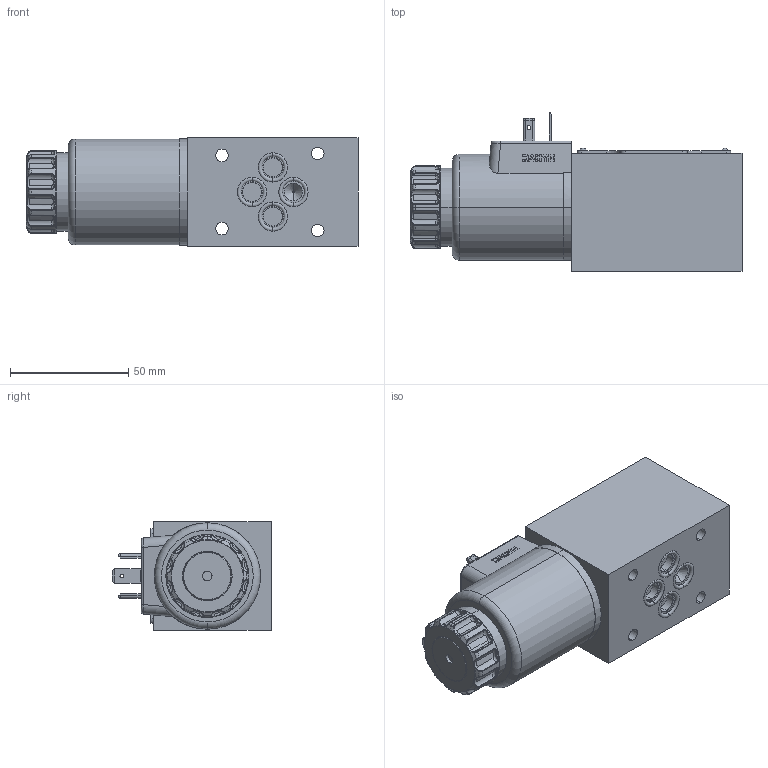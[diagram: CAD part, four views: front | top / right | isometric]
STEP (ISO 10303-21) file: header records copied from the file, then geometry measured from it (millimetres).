
FILE_DESCRIPTION (( 'STEP AP203' ), '1' );
FILE_NAME ('WSE 6 Mag A -0.STEP', '2020-06-10T10:04:52', ( '' ), ( '' ), 'SwSTEP 2.0', 'SolidWorks 2020', '' );
FILE_SCHEMA (( 'CONFIG_CONTROL_DESIGN' ));
Length unit declared in the file: millimetre
Products named in the file (1): WSE 6 Mag A -0
Bounding box: 140.38 x 67.24 x 46 mm (x, y, z)
Volume: 261448.1 mm3; surface area: 44662.4 mm2
Topology: 2 solids, 2 shells, 868 faces, 2118 edges, 1313 vertices
Faces by surface type: plane 372, cylinder 219, torus 94, bspline 92, cone 63, sphere 28
Entity records: 30091 total; most frequent: CARTESIAN_POINT 9870, ORIENTED_EDGE 4204, DIRECTION 4196, EDGE_CURVE 2102, AXIS2_PLACEMENT_3D 1542, VERTEX_POINT 1309, LINE 1112, VECTOR 1112
